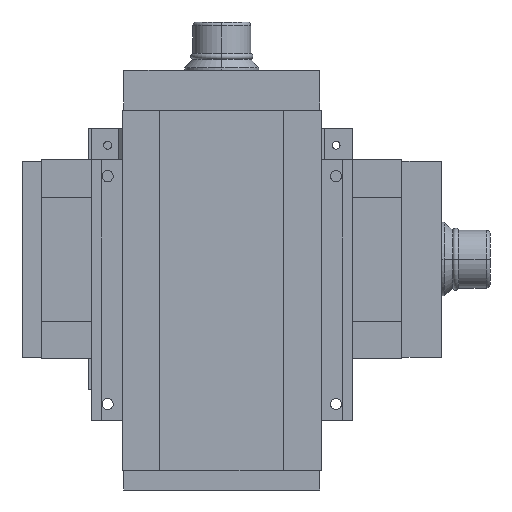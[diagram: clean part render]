
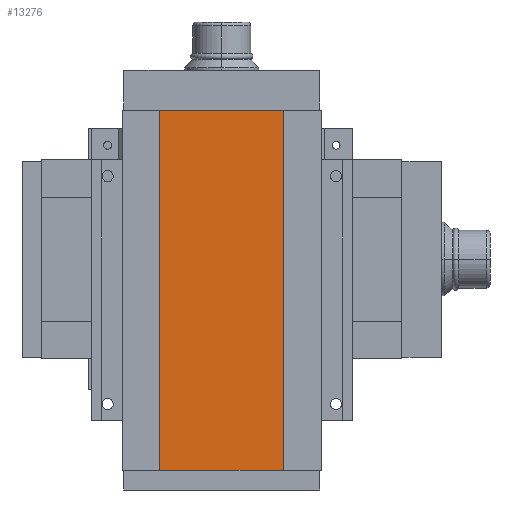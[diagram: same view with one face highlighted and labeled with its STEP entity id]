
A CAD part, front view. The second image highlights one B-rep face of the part: STEP entity #13276.
In plain terms, the highlighted planar face has unit normal (0, -1, 0).
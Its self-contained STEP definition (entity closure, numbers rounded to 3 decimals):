
#1824 = LINE ( 'NONE', #1829, #1830 ) ;
#1829 = CARTESIAN_POINT ( 'NONE',  ( -26.155, 0., 72.5 ) ) ;
#1830 = VECTOR ( 'NONE', #1831, 1000. ) ;
#1831 = DIRECTION ( 'NONE',  ( 1., 0., 0. ) ) ;
#2605 = LINE ( 'NONE', #2606, #2607 ) ;
#2606 = CARTESIAN_POINT ( 'NONE',  ( 26.155, 0., 72.5 ) ) ;
#2607 = VECTOR ( 'NONE', #2608, 1000. ) ;
#2608 = DIRECTION ( 'NONE',  ( 0., 0., -1. ) ) ;
#2763 = VERTEX_POINT ( 'NONE', #13493 ) ;
#2830 = VERTEX_POINT ( 'NONE', #13524 ) ;
#3019 = EDGE_CURVE ( 'NONE', #2763, #11039, #13623, .T. ) ;
#3323 = FACE_OUTER_BOUND ( 'NONE', #13029, .T. ) ;
#3324 = PLANE ( 'NONE',  #3325 ) ;
#3325 = AXIS2_PLACEMENT_3D ( 'NONE', #3326, #3327, #3331 ) ;
#3326 = CARTESIAN_POINT ( 'NONE',  ( -26.155, 0., 72.5 ) ) ;
#3327 = DIRECTION ( 'NONE',  ( 0., 1., 0. ) ) ;
#3331 = DIRECTION ( 'NONE',  ( 0., 0., 1. ) ) ;
#3351 = CARTESIAN_POINT ( 'NONE',  ( 26.155, 0., 72.5 ) ) ;
#5876 = CARTESIAN_POINT ( 'NONE',  ( -26.155, 0., -72.5 ) ) ;
#6760 = ORIENTED_EDGE ( 'NONE', *, *, #3019, .T. ) ;
#7341 = EDGE_CURVE ( 'NONE', #2763, #13315, #1824, .T. ) ;
#7712 = ORIENTED_EDGE ( 'NONE', *, *, #7341, .F. ) ;
#8295 = ORIENTED_EDGE ( 'NONE', *, *, #8958, .F. ) ;
#8346 = LINE ( 'NONE', #8347, #8348 ) ;
#8347 = CARTESIAN_POINT ( 'NONE',  ( -26.155, 0., -72.5 ) ) ;
#8348 = VECTOR ( 'NONE', #8349, 1000. ) ;
#8349 = DIRECTION ( 'NONE',  ( 1., 0., 0. ) ) ;
#8958 = EDGE_CURVE ( 'NONE', #13315, #2830, #2605, .T. ) ;
#11039 = VERTEX_POINT ( 'NONE', #5876 ) ;
#12248 = EDGE_CURVE ( 'NONE', #11039, #2830, #8346, .T. ) ;
#12449 = ORIENTED_EDGE ( 'NONE', *, *, #12248, .T. ) ;
#13029 = EDGE_LOOP ( 'NONE', ( #12449, #8295, #7712, #6760 ) ) ;
#13276 = ADVANCED_FACE ( 'NONE', ( #3323 ), #3324, .F. ) ;
#13315 = VERTEX_POINT ( 'NONE', #3351 ) ;
#13493 = CARTESIAN_POINT ( 'NONE',  ( -26.155, 0., 72.5 ) ) ;
#13524 = CARTESIAN_POINT ( 'NONE',  ( 26.155, 0., -72.5 ) ) ;
#13623 = LINE ( 'NONE', #13624, #13625 ) ;
#13624 = CARTESIAN_POINT ( 'NONE',  ( -26.155, 0., 72.5 ) ) ;
#13625 = VECTOR ( 'NONE', #13626, 1000. ) ;
#13626 = DIRECTION ( 'NONE',  ( 0., 0., -1. ) ) ;
